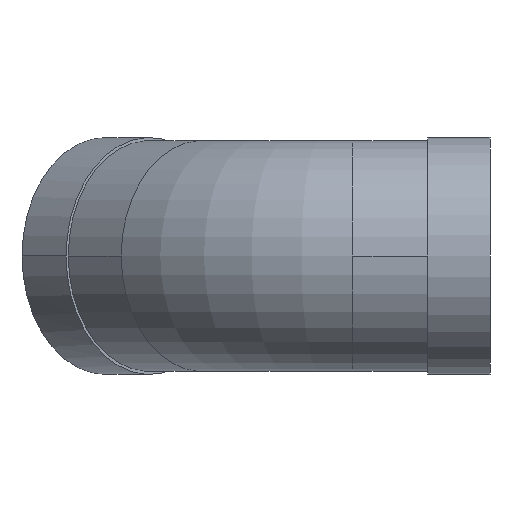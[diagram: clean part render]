
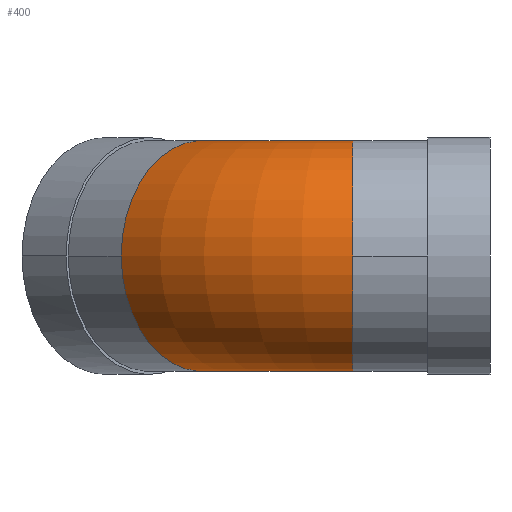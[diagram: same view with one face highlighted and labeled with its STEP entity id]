
A CAD part, front view. The second image highlights one B-rep face of the part: STEP entity #400.
In plain terms, the highlighted toroidal (fillet/blend) face has major radius 17 mm and minor radius 9.25 mm.
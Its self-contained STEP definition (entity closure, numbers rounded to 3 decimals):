
#15 = CARTESIAN_POINT ( 'NONE',  ( -23.021, 4.979, 0. ) ) ;
#17 = CARTESIAN_POINT ( 'NONE',  ( -11., 9.196, -1. ) ) ;
#42 = CARTESIAN_POINT ( 'NONE',  ( -11., 0., 0. ) ) ;
#46 = EDGE_CURVE ( 'NONE', #518, #511, #181, .T. ) ;
#79 = CIRCLE ( 'NONE', #469, 7.804 ) ;
#137 = CIRCLE ( 'NONE', #643, 7.804 ) ;
#163 = CARTESIAN_POINT ( 'NONE',  ( -11., 17., 0. ) ) ;
#172 = CARTESIAN_POINT ( 'NONE',  ( -11., 9.196, 1. ) ) ;
#181 = CIRCLE ( 'NONE', #743, 9.25 ) ;
#185 = ORIENTED_EDGE ( 'NONE', *, *, #711, .F. ) ;
#217 = TOROIDAL_SURFACE ( 'NONE', #494, 17., 9.25 ) ;
#219 = ORIENTED_EDGE ( 'NONE', *, *, #46, .F. ) ;
#233 = CARTESIAN_POINT ( 'NONE',  ( -11., -9.25, 0. ) ) ;
#234 = CARTESIAN_POINT ( 'NONE',  ( -23.021, 4.979, 0. ) ) ;
#245 = DIRECTION ( 'NONE',  ( -1., 0., 0. ) ) ;
#260 = VERTEX_POINT ( 'NONE', #17 ) ;
#267 = CARTESIAN_POINT ( 'NONE',  ( -16.518, 11.482, 1. ) ) ;
#282 = CIRCLE ( 'NONE', #790, 9.25 ) ;
#322 = EDGE_LOOP ( 'NONE', ( #597, #407, #219, #185, #584, #505 ) ) ;
#351 = DIRECTION ( 'NONE',  ( -0.707, 0.707, 0. ) ) ;
#389 = VERTEX_POINT ( 'NONE', #172 ) ;
#400 = ADVANCED_FACE ( 'NONE', ( #573 ), #217, .T. ) ;
#407 = ORIENTED_EDGE ( 'NONE', *, *, #858, .F. ) ;
#418 = DIRECTION ( 'NONE',  ( -0.707, -0.707, 0. ) ) ;
#419 = CARTESIAN_POINT ( 'NONE',  ( -11., 17., -1. ) ) ;
#422 = CIRCLE ( 'NONE', #728, 9.25 ) ;
#447 = CARTESIAN_POINT ( 'NONE',  ( -16.518, 11.482, -1. ) ) ;
#452 = CARTESIAN_POINT ( 'NONE',  ( -11., 17., 1. ) ) ;
#461 = DIRECTION ( 'NONE',  ( -1., 0., 0. ) ) ;
#469 = AXIS2_PLACEMENT_3D ( 'NONE', #452, #588, #657 ) ;
#482 = VERTEX_POINT ( 'NONE', #233 ) ;
#492 = EDGE_CURVE ( 'NONE', #540, #389, #79, .T. ) ;
#494 = AXIS2_PLACEMENT_3D ( 'NONE', #163, #786, #461 ) ;
#505 = ORIENTED_EDGE ( 'NONE', *, *, #506, .T. ) ;
#506 = EDGE_CURVE ( 'NONE', #482, #389, #785, .T. ) ;
#510 = DIRECTION ( 'NONE',  ( 0., -1., 0. ) ) ;
#511 = VERTEX_POINT ( 'NONE', #722 ) ;
#518 = VERTEX_POINT ( 'NONE', #447 ) ;
#532 = EDGE_CURVE ( 'NONE', #260, #482, #282, .T. ) ;
#540 = VERTEX_POINT ( 'NONE', #267 ) ;
#573 = FACE_OUTER_BOUND ( 'NONE', #322, .T. ) ;
#584 = ORIENTED_EDGE ( 'NONE', *, *, #532, .T. ) ;
#588 = DIRECTION ( 'NONE',  ( 0., 0., 1. ) ) ;
#591 = CARTESIAN_POINT ( 'NONE',  ( -11., 0., 0. ) ) ;
#597 = ORIENTED_EDGE ( 'NONE', *, *, #492, .F. ) ;
#643 = AXIS2_PLACEMENT_3D ( 'NONE', #419, #687, #843 ) ;
#657 = DIRECTION ( 'NONE',  ( 0., 1., 0. ) ) ;
#668 = DIRECTION ( 'NONE',  ( -0.707, -0.707, 0. ) ) ;
#687 = DIRECTION ( 'NONE',  ( 0., 0., -1. ) ) ;
#711 = EDGE_CURVE ( 'NONE', #260, #518, #137, .T. ) ;
#722 = CARTESIAN_POINT ( 'NONE',  ( -29.562, -1.562, 0. ) ) ;
#727 = DIRECTION ( 'NONE',  ( -0.707, 0.707, 0. ) ) ;
#728 = AXIS2_PLACEMENT_3D ( 'NONE', #15, #351, #418 ) ;
#735 = DIRECTION ( 'NONE',  ( 0., -1., 0. ) ) ;
#743 = AXIS2_PLACEMENT_3D ( 'NONE', #234, #727, #668 ) ;
#768 = AXIS2_PLACEMENT_3D ( 'NONE', #42, #865, #510 ) ;
#785 = CIRCLE ( 'NONE', #768, 9.25 ) ;
#786 = DIRECTION ( 'NONE',  ( 0., 0., -1. ) ) ;
#790 = AXIS2_PLACEMENT_3D ( 'NONE', #591, #245, #735 ) ;
#843 = DIRECTION ( 'NONE',  ( 0., -1., 0. ) ) ;
#858 = EDGE_CURVE ( 'NONE', #511, #540, #422, .T. ) ;
#865 = DIRECTION ( 'NONE',  ( -1., 0., 0. ) ) ;
